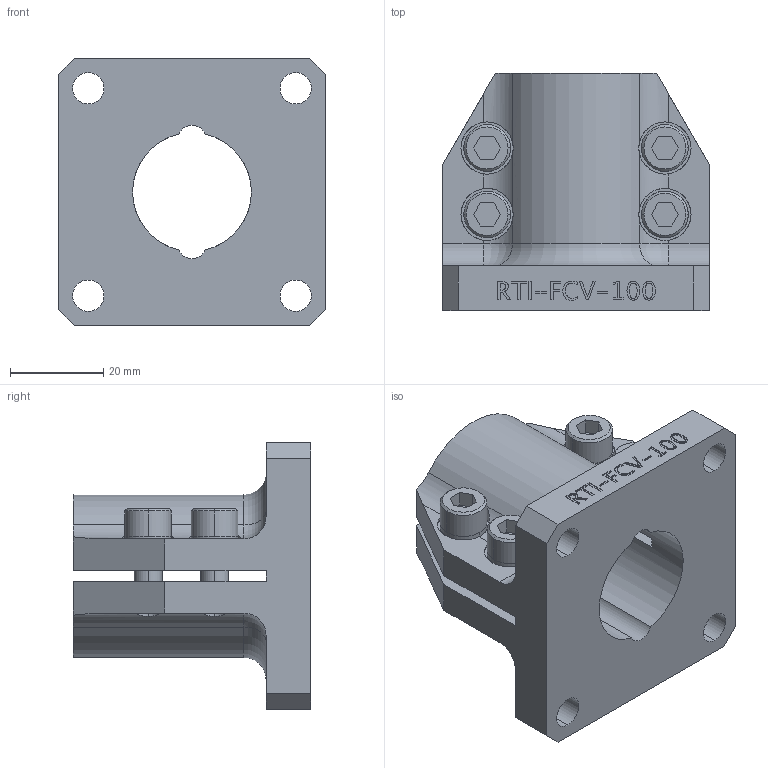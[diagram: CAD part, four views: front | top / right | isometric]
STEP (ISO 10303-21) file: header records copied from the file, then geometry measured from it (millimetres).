
FILE_DESCRIPTION (( 'STEP AP214' ), '1' );
FILE_NAME ('RTI-FCV-100.STEP', '2013-10-22T14:05:42', ( 'user' ), ( '' ), 'SwSTEP 2.0', 'SolidWorks 2009', '' );
FILE_SCHEMA (( 'AUTOMOTIVE_DESIGN' ));
Length unit declared in the file: inch
Products named in the file (4): RTI-FCV-100; M6 WASHER; M6 S.H.C.S._M6x16mm
Assembly tree (9 placements, depth 2):
  RTI-FCV-100
    RTI-FCV-100
    M6 WASHER  x4
    M6 S.H.C.S._M6x16mm  x4
Bounding box: 57.15 x 50.8 x 57.15 mm (x, y, z)
Volume: 54757.6 mm3; surface area: 23732.7 mm2
Topology: 9 solids, 9 shells, 475 faces, 1220 edges, 805 vertices
Faces by surface type: plane 278, bspline 90, cylinder 84, cone 16, torus 7
Entity records: 22149 total; most frequent: CARTESIAN_POINT 8724, ORIENTED_EDGE 2140, DIRECTION 1644, EDGE_CURVE 1070, LINE 730, VECTOR 730, VERTEX_POINT 709, EDGE_LOOP 467
